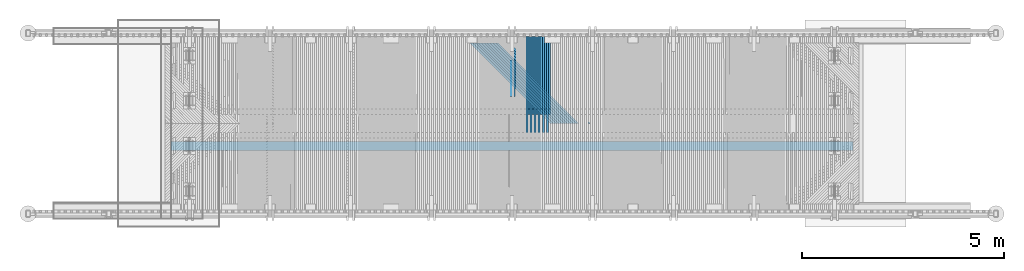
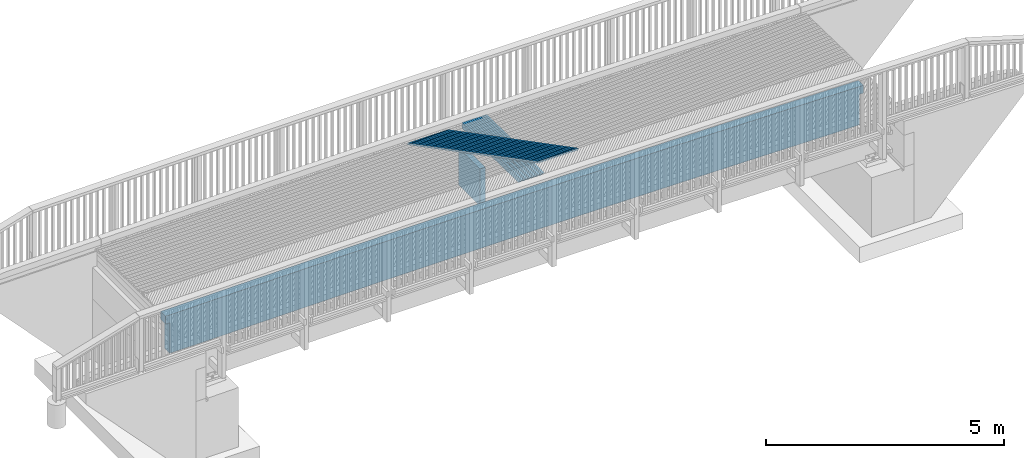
# One storey, part 32 of 52: 28 beams.
"""IFC2X3 building model written with IfcOpenShell, lengths in millimetres."""

from ifc_helpers import new_model, si_unit, frame, origin_with_axes, place, context, subcontext, project, spatial, faceted_brep, material, type_object, element, save


model = new_model("IFC2X3")

# Units and contexts
model_context = context("Model", 3, precision=1e-05, world=origin_with_axes())
body_context = subcontext(model_context, "Body", "Model", "MODEL_VIEW")
ifc_project = project(units=[si_unit("LENGTHUNIT", "METRE", prefix="MILLI"), si_unit("AREAUNIT", "SQUARE_METRE"), si_unit("VOLUMEUNIT", "CUBIC_METRE"), si_unit("MASSUNIT", "GRAM", prefix="KILO"), si_unit("TIMEUNIT", "SECOND"), si_unit("PLANEANGLEUNIT", "RADIAN"), si_unit("SOLIDANGLEUNIT", "STERADIAN"), si_unit("THERMODYNAMICTEMPERATUREUNIT", "DEGREE_CELSIUS"), si_unit("LUMINOUSINTENSITYUNIT", "LUMEN")], contexts=[model_context])

# Site, building, storey
site_placement = place(None, origin_with_axes())
site = spatial("IfcSite", under=ifc_project, at=site_placement, Name="Undefined", CompositionType="ELEMENT")
building_placement = place(site_placement, origin_with_axes())
building = spatial("IfcBuilding", under=site, at=building_placement, Name="Undefined", CompositionType="ELEMENT")
storey_placement = place(building_placement, origin_with_axes())
storey = spatial("IfcBuildingStorey", under=building, at=storey_placement, Name="Undefined", CompositionType="ELEMENT", Elevation=0.0)

# Beams
ifc_material = material(Name="TIMBER/Timber_Undefined")
beam_type_1 = type_object("IfcBeamType", Name="945*140", PredefinedType="NOTDEFINED")
beam_1_placement = place(storey_placement, frame((8000.0, 3937.5, 2542.6979002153), z_axis=(0.0, 0.0, 1.0), x_axis=(0.0, -1.0, 0.0)))
element("IfcBeam", 1, at=beam_1_placement, inside=storey, type_object=beam_type_1, material=ifc_material, Name="PALKKI", ObjectType="945*140", context=body_context, shape_type="Brep", body=[
    faceted_brep([(0.0, 70.0, -472.5), (0.0, 70.0, 472.5), (905.0, 70.0, 472.5), (905.0, 70.0, -472.5), (0.0, -70.0, 472.5), (905.0, -70.0, 472.5), (0.0, -70.0, -472.5), (905.0, -70.0, -472.5)], [[[0, 1, 2, 3]], [[1, 4, 5, 2]], [[4, 6, 7, 5]], [[6, 0, 3, 7]], [[5, 7, 3, 2]], [[6, 4, 1, 0]]]),
])
beam_type_2 = type_object("IfcBeamType", Name="50*50", PredefinedType="NOTDEFINED")
for number, where, z_axis, x_axis, name in (
    (2, (9903.90922166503, 2365.49989967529, 3233.11191274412), (0.707070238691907, 0.706981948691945, -0.0151063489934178), (-0.707142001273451, 0.706948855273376, -0.0131721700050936), "BEAM"),
    (3, (9833.18532878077, 2365.49989967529, 3233.33139353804), (0.707072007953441, 0.706981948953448, -0.0150232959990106), (-0.707140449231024, 0.706948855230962, -0.0132552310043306), "BEAM"),
    (4, (9762.46141060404, 2365.49989967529, 3233.54256705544), (0.707073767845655, 0.706981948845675, -0.0149402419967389), (-0.707138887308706, 0.706948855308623, -0.0133382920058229), "BEAM"),
    (5, (9691.73746811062, 2365.49989967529, 3233.7454332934), (0.707075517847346, 0.706981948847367, -0.0148571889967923), (-0.707137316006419, 0.706948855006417, -0.0134213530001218), "BEAM"),
    (6, (9621.01350227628, 2365.49989967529, 3233.93999224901), (0.707077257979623, 0.706981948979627, -0.0147741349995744), (-0.707135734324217, 0.706948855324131, -0.0135044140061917), "BEAM"),
    (7, (9550.28951407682, 2365.49989967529, 3234.12624391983), (0.707078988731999, 0.706981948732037, -0.0146910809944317), (-0.70713414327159, 0.706948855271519, -0.0135874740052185), "BEAM"),
    (8, (9479.565504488, 2365.49989967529, 3234.30418830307), (0.707080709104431, 0.706981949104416, -0.0146080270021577), (-0.70713254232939, 0.706948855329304, -0.0136705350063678), "BEAM"),
    (9, (9408.8414744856, 2365.49989967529, 3234.4738253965), (0.707082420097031, 0.706981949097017, -0.0145249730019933), (-0.707130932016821, 0.706948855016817, -0.0137535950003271), "BEAM"),
    (10, (9338.11742504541, 2365.49989967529, 3234.63515519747), (0.70708412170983, 0.706981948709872, -0.0144419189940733), (-0.707129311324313, 0.70694885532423, -0.0138366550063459), "BEAM"),
    (11, (9267.39335714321, 2365.49989967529, 3234.78817770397), (0.70708581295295, 0.706981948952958, -0.0143588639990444), (-0.707127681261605, 0.706948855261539, -0.0139197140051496), "BEAM"),
    (12, (9196.66927175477, 2365.49989967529, 3234.93289291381), (0.707087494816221, 0.706981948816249, -0.0142758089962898), (-0.707126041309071, 0.706948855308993, -0.0140027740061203), "BEAM"),
    (13, (9125.94516985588, 2365.49989967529, 3235.06930082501), (0.707089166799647, 0.706981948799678, -0.0141927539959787), (-0.707124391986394, 0.706948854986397, -0.0140858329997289), "BEAM"),
    (14, (9055.22105242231, 2365.49989967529, 3235.1974014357), (0.707090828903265, 0.706981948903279, -0.0141096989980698), (-0.707122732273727, 0.70694885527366, -0.0141688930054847), "BEAM"),
    (15, (8984.49692042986, 2365.49989967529, 3235.31719474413), (0.707092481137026, 0.706981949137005, -0.0140266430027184), (-0.707121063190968, 0.706948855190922, -0.014251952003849), "BEAM"),
):
    element("IfcBeam", number, at=place(storey_placement, frame(where, z_axis=z_axis, x_axis=x_axis)), inside=storey, type_object=beam_type_2, material=ifc_material, Name=name, ObjectType="50*50", context=body_context, shape_type="Brep", body=[
        faceted_brep([(23.5869248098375, 25.0, -25.0000000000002), (-26.4154158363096, 25.0000000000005, 24.9999999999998), (2802.92643296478, 25.0, 24.9999999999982), (2852.92877373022, 25.0000000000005, -25.0), (-25.0011704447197, -25.0, 24.9999999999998), (2804.3406783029, -25.0000000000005, 24.9999999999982), (25.0011701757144, -25.0, -25.0), (2854.34301907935, -24.9999999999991, -25.0)], [[[0, 1, 2, 3]], [[1, 4, 5, 2]], [[4, 6, 7, 5]], [[6, 0, 3, 7]], [[5, 7, 3, 2]], [[6, 4, 1, 0]]]),
    ])
beam_type_3 = type_object("IfcBeamType", Name="150*50", PredefinedType="NOTDEFINED")
beam_2_placement = place(storey_placement, frame((8875.35105555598, 4513.4953923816, 3092.51355357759), z_axis=(0.00137347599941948, 0.0199960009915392, 0.999799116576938), x_axis=(2.74690000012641e-05, -0.999800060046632, 0.0199959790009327)))
element("IfcBeam", 16, at=beam_2_placement, inside=storey, type_object=beam_type_3, material=ifc_material, Name="BEAM", ObjectType="150*50", context=body_context, shape_type="Brep", body=[
    faceted_brep([(-1.67788130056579e-07, -24.9999999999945, -74.9999999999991), (-1.67787220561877e-07, 25.0000000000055, -75.0), (2375.00494422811, 25.0000000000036, -74.9999999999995), (2375.0049444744, -24.9999999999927, -74.9999999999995), (1.67786311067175e-07, -24.9999999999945, 75.0000000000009), (1.67786311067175e-07, 25.0000000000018, 75.0), (2150.42515052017, 25.0000000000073, 75.0), (2510.59248715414, 25.0000000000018, 60.5875433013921), (2510.5924871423, -24.9999999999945, 60.5875430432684), (2150.42514405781, -24.9999999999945, 75.0000000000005)], [[[0, 1, 2, 3]], [[0, 4, 5, 1]], [[2, 1, 5, 6, 7]], [[3, 2, 7, 8]], [[4, 0, 3, 8, 9]], [[5, 4, 9, 6]], [[8, 7, 6, 9]]]),
])
beam_3_placement = place(storey_placement, frame((8925.37102920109, 4513.49539238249, 3092.43652922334), z_axis=(0.00153959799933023, 0.0199960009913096, 0.999798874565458), x_axis=(3.0791000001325e-05, -0.999800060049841, 0.0199959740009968)))
element("IfcBeam", 17, at=beam_3_placement, inside=storey, type_object=beam_type_3, material=ifc_material, Name="BEAM", ObjectType="150*50", context=body_context, shape_type="Brep", body=[
    faceted_brep([(-1.67788130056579e-07, -24.9999999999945, -74.9999999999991), (1.67786311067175e-07, -24.9999999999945, 75.0000000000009), (1.67786311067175e-07, 25.0000000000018, 75.0), (-1.67787220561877e-07, 25.0000000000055, -75.0), (1789.96936408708, 24.9999999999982, 75.0000000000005), (1928.42646328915, 24.9999999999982, -74.9999999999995), (1928.42646353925, -25.0, -75.0), (1789.96936433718, -25.0000000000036, 74.9999999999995)], [[[0, 1, 2, 3]], [[3, 2, 4, 5]], [[0, 3, 5, 6]], [[1, 0, 6, 7]], [[2, 1, 7, 4]], [[5, 4, 7, 6]]]),
])
beam_4_placement = place(storey_placement, frame((8775.33111583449, 4513.4953923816, 3092.65068841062), z_axis=(0.00120735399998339, 0.0199960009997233, 0.999799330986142), x_axis=(2.41470000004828e-05, -0.999800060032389, 0.0199959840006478)))
element("IfcBeam", 18, at=beam_4_placement, inside=storey, type_object=beam_type_3, material=ifc_material, Name="BEAM", ObjectType="150*50", context=body_context, shape_type="Brep", body=[
    faceted_brep([(-1.67788130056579e-07, -24.9999999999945, -74.9999999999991), (-1.67787220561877e-07, 25.0000000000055, -75.0), (2375.00494422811, 25.0000000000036, -74.9999999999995), (2375.0049444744, -24.9999999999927, -74.9999999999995), (1.67786311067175e-07, -24.9999999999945, 75.0000000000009), (1.67786311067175e-07, 25.0000000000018, 75.0), (2150.42515052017, 25.0000000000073, 75.0), (2510.59248715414, 25.0000000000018, 60.5875433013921), (2510.5924871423, -24.9999999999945, 60.5875430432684), (2150.42514405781, -24.9999999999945, 75.0000000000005)], [[[0, 1, 2, 3]], [[0, 4, 5, 1]], [[2, 1, 5, 6, 7]], [[3, 2, 7, 8]], [[4, 0, 3, 8, 9]], [[5, 4, 9, 6]], [[8, 7, 6, 9]]]),
])
beam_5_placement = place(storey_placement, frame((8825.35110158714, 4513.49539238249, 3092.5819751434), z_axis=(0.00137347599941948, 0.0199960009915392, 0.999799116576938), x_axis=(2.74690000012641e-05, -0.999800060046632, 0.0199959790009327)))
element("IfcBeam", 19, at=beam_5_placement, inside=storey, type_object=beam_type_3, material=ifc_material, Name="BEAM", ObjectType="150*50", context=body_context, shape_type="Brep", body=[
    faceted_brep([(-1.67788130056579e-07, -24.9999999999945, -74.9999999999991), (1.67786311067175e-07, -24.9999999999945, 75.0000000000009), (1.67786311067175e-07, 25.0000000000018, 75.0), (-1.67787220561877e-07, 25.0000000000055, -75.0), (1789.96936408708, 24.9999999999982, 75.0000000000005), (1928.42646328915, 24.9999999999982, -74.9999999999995), (1928.42646353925, -25.0, -75.0), (1789.96936433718, -25.0000000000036, 74.9999999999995)], [[[0, 1, 2, 3]], [[3, 2, 4, 5]], [[0, 3, 5, 6]], [[1, 0, 6, 7]], [[2, 1, 7, 4]], [[5, 4, 7, 6]]]),
])
beam_6_placement = place(storey_placement, frame((8675.31115470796, 4513.4953923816, 3092.77120439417), z_axis=(0.00104123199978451, 0.0199960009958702, 0.99979951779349), x_axis=(2.08240000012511e-05, -0.999800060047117, 0.0199959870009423)))
element("IfcBeam", 20, at=beam_6_placement, inside=storey, type_object=beam_type_3, material=ifc_material, Name="BEAM", ObjectType="150*50", context=body_context, shape_type="Brep", body=[
    faceted_brep([(-1.67788130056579e-07, -24.9999999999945, -74.9999999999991), (-1.67787220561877e-07, 25.0000000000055, -75.0), (2375.00494422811, 25.0000000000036, -74.9999999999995), (2375.0049444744, -24.9999999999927, -74.9999999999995), (1.67786311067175e-07, -24.9999999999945, 75.0000000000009), (1.67786311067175e-07, 25.0000000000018, 75.0), (2150.42515052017, 25.0000000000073, 75.0), (2510.59248715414, 25.0000000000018, 60.5875433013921), (2510.5924871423, -24.9999999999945, 60.5875430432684), (2150.42514405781, -24.9999999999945, 75.0000000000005)], [[[0, 1, 2, 3]], [[0, 4, 5, 1]], [[2, 1, 5, 6, 7]], [[3, 2, 7, 8]], [[4, 0, 3, 8, 9]], [[5, 4, 9, 6]], [[8, 7, 6, 9]]]),
])
beam_7_placement = place(storey_placement, frame((8725.33115118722, 4513.49539238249, 3092.71080221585), z_axis=(0.00120735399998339, 0.0199960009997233, 0.999799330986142), x_axis=(2.41470000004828e-05, -0.999800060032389, 0.0199959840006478)))
element("IfcBeam", 21, at=beam_7_placement, inside=storey, type_object=beam_type_3, material=ifc_material, Name="BEAM", ObjectType="150*50", context=body_context, shape_type="Brep", body=[
    faceted_brep([(-1.67788130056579e-07, -24.9999999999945, -74.9999999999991), (1.67786311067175e-07, -24.9999999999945, 75.0000000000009), (1.67786311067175e-07, 25.0000000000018, 75.0), (-1.67787220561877e-07, 25.0000000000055, -75.0), (1789.96936408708, 24.9999999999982, 75.0000000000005), (1928.42646328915, 24.9999999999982, -74.9999999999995), (1928.42646353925, -25.0, -75.0), (1789.96936433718, -25.0000000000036, 74.9999999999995)], [[[0, 1, 2, 3]], [[3, 2, 4, 5]], [[0, 3, 5, 6]], [[1, 0, 6, 7]], [[2, 1, 7, 4]], [[5, 4, 7, 6]]]),
])
beam_8_placement = place(storey_placement, frame((8575.29117493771, 4513.4953923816, 3092.8751015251), z_axis=(0.00087510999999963, 0.0199960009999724, 0.999799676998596), x_axis=(1.75020000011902e-05, -0.999800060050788, 0.0199959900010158)))
element("IfcBeam", 22, at=beam_8_placement, inside=storey, type_object=beam_type_3, material=ifc_material, Name="BEAM", ObjectType="150*50", context=body_context, shape_type="Brep", body=[
    faceted_brep([(-1.67788130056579e-07, -24.9999999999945, -74.9999999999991), (-1.67787220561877e-07, 25.0000000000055, -75.0), (2375.00494422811, 25.0000000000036, -74.9999999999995), (2375.0049444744, -24.9999999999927, -74.9999999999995), (1.67786311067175e-07, -24.9999999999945, 75.0000000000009), (1.67786311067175e-07, 25.0000000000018, 75.0), (2150.42515052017, 25.0000000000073, 75.0), (2510.59248715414, 25.0000000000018, 60.5875433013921), (2510.5924871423, -24.9999999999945, 60.5875430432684), (2150.42520082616, -25.0000000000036, 75.0000000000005)], [[[0, 1, 2, 3]], [[0, 4, 5, 1]], [[2, 1, 5, 6, 7]], [[3, 2, 7, 8]], [[4, 0, 3, 8, 9]], [[5, 4, 9, 6]], [[6, 9, 8, 7]]]),
])
beam_9_placement = place(storey_placement, frame((8625.31118076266, 4513.49539238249, 3092.82301043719), z_axis=(0.00104123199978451, 0.0199960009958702, 0.99979951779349), x_axis=(2.08240000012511e-05, -0.999800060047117, 0.0199959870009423)))
element("IfcBeam", 23, at=beam_9_placement, inside=storey, type_object=beam_type_3, material=ifc_material, Name="BEAM", ObjectType="150*50", context=body_context, shape_type="Brep", body=[
    faceted_brep([(-1.67788130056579e-07, -24.9999999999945, -74.9999999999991), (1.67786311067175e-07, -24.9999999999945, 75.0000000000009), (1.67786311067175e-07, 25.0000000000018, 75.0), (-1.67787220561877e-07, 25.0000000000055, -75.0), (1789.96936408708, 24.9999999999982, 75.0000000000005), (1928.42646328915, 24.9999999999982, -74.9999999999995), (1928.42646353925, -25.0, -75.0), (1789.96936433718, -25.0000000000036, 74.9999999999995)], [[[0, 1, 2, 3]], [[3, 2, 4, 5]], [[0, 3, 5, 6]], [[1, 0, 6, 7]], [[2, 1, 7, 4]], [[5, 4, 7, 6]]]),
])
beam_10_placement = place(storey_placement, frame((8475.27117928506, 4513.4953923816, 3092.96237980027), z_axis=(0.000708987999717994, 0.0199960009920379, 0.999799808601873), x_axis=(1.41790000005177e-05, -0.999800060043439, 0.0199959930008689)))
element("IfcBeam", 24, at=beam_10_placement, inside=storey, type_object=beam_type_3, material=ifc_material, Name="BEAM", ObjectType="150*50", context=body_context, shape_type="Brep", body=[
    faceted_brep([(-1.67788130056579e-07, -24.9999999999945, -74.9999999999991), (-1.67787220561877e-07, 25.0000000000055, -75.0), (2375.00494422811, 25.0000000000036, -74.9999999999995), (2375.0049444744, -24.9999999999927, -74.9999999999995), (1.67786311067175e-07, -24.9999999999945, 75.0000000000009), (1.67786311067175e-07, 25.0000000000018, 75.0), (2150.42515052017, 25.0000000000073, 75.0), (2510.59248715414, 25.0000000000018, 60.5875433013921), (2510.5924871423, -24.9999999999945, 60.5875430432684), (2150.42514405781, -24.9999999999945, 75.0000000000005)], [[[0, 1, 2, 3]], [[0, 4, 5, 1]], [[2, 1, 5, 6, 7]], [[3, 2, 7, 8]], [[4, 0, 3, 8, 9]], [[5, 4, 9, 6]], [[8, 7, 6, 9]]]),
])
beam_11_placement = place(storey_placement, frame((8525.29119307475, 4513.49539238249, 3092.91859980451), z_axis=(0.00087510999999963, 0.0199960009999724, 0.999799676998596), x_axis=(1.75020000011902e-05, -0.999800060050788, 0.0199959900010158)))
element("IfcBeam", 25, at=beam_11_placement, inside=storey, type_object=beam_type_3, material=ifc_material, Name="BEAM", ObjectType="150*50", context=body_context, shape_type="Brep", body=[
    faceted_brep([(-1.67788130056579e-07, -24.9999999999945, -74.9999999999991), (1.67786311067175e-07, -24.9999999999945, 75.0000000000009), (1.67786311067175e-07, 25.0000000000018, 75.0), (-1.67787220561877e-07, 25.0000000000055, -75.0), (1789.96936408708, 24.9999999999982, 75.0000000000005), (1928.42646328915, 24.9999999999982, -74.9999999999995), (1928.42646353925, -25.0, -75.0), (1789.96936433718, -25.0000000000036, 74.9999999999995)], [[[0, 1, 2, 3]], [[3, 2, 4, 5]], [[0, 3, 5, 6]], [[1, 0, 6, 7]], [[2, 1, 7, 4]], [[5, 4, 7, 6]]]),
])
beam_12_placement = place(storey_placement, frame((8375.25117051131, 4513.4953923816, 3093.03303921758), z_axis=(0.000542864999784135, 0.0199960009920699, 0.999799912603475), x_axis=(1.08570000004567e-05, -0.999800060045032, 0.0199959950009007)))
element("IfcBeam", 26, at=beam_12_placement, inside=storey, type_object=beam_type_3, material=ifc_material, Name="BEAM", ObjectType="150*50", context=body_context, shape_type="Brep", body=[
    faceted_brep([(-1.67788130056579e-07, -24.9999999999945, -74.9999999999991), (-1.67787220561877e-07, 25.0000000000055, -75.0), (2375.00494422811, 25.0000000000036, -74.9999999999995), (2375.0049444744, -24.9999999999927, -74.9999999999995), (1.67786311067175e-07, -24.9999999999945, 75.0000000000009), (1.67786311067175e-07, 25.0000000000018, 75.0), (2150.42515052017, 25.0000000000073, 75.0), (2510.59248715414, 25.0000000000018, 60.5875433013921), (2510.5924871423, -24.9999999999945, 60.5875430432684), (2150.42514405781, -24.9999999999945, 75.0000000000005)], [[[0, 1, 2, 3]], [[0, 4, 5, 1]], [[2, 1, 5, 6, 7]], [[3, 2, 7, 8]], [[4, 0, 3, 8, 9]], [[5, 4, 9, 6]], [[8, 7, 6, 9]]]),
])
beam_13_placement = place(storey_placement, frame((8425.27119088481, 4513.49539238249, 3092.99757031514), z_axis=(0.000708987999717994, 0.0199960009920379, 0.999799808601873), x_axis=(1.41790000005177e-05, -0.999800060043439, 0.0199959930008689)))
element("IfcBeam", 27, at=beam_13_placement, inside=storey, type_object=beam_type_3, material=ifc_material, Name="BEAM", ObjectType="150*50", context=body_context, shape_type="Brep", body=[
    faceted_brep([(-1.67788130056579e-07, -24.9999999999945, -74.9999999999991), (1.67786311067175e-07, -24.9999999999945, 75.0000000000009), (1.67786311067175e-07, 25.0000000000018, 75.0), (-1.67787220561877e-07, 25.0000000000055, -75.0), (1789.96936408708, 24.9999999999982, 75.0000000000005), (1928.42646328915, 24.9999999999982, -74.9999999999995), (1928.42646353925, -25.0, -75.0), (1789.96936433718, -25.0000000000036, 74.9999999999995)], [[[0, 1, 2, 3]], [[3, 2, 4, 5]], [[0, 3, 5, 6]], [[1, 0, 6, 7]], [[2, 1, 7, 4]], [[5, 4, 7, 6]]]),
])
beam_type_4 = type_object("IfcBeamType", Name="990*215", PredefinedType="NOTDEFINED")
beam_14_placement = place(storey_placement, frame((243.613169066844, 1805.0, 2502.11879463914), z_axis=(0.0, 0.0, 1.0), x_axis=(1.0, 0.0, 0.0)))
element("IfcBeam", 28, at=beam_14_placement, inside=storey, type_object=beam_type_4, material=ifc_material, Name="PALKKI", ObjectType="990*215", context=body_context, shape_type="Brep", body=[
    faceted_brep([(16106.3868309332, 107.5, -494.790894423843), (16106.3868309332, -107.5, -494.790894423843), (16080.5342107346, -107.5, -494.790894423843), (15793.4597682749, -107.5, -494.790894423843), (15506.3868309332, -107.5, -494.958794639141), (15506.3868309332, 107.5, -494.958794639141), (15793.4597682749, 107.5, -494.790894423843), (16080.5342107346, 107.5, -494.790894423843), (16106.3868309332, 107.5, 285.209105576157), (16106.3868309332, -107.5, 285.209105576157), (16206.3868309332, 107.5, 285.209105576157), (16206.3868309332, -107.5, 285.209105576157), (16206.3868309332, 107.5, 485.682039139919), (16206.3868309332, -107.5, 485.682039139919), (-627.370013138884, 107.5, 486.625216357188), (-627.370013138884, -107.5, 486.625216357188), (-316.879497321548, -107.5, 490.87213125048), (-316.879497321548, 107.5, 490.87213125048), (-693.613169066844, -107.5, 485.684940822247), (-693.613169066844, -107.5, 285.209105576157), (-624.563039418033, -107.5, 285.209105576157), (-693.613169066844, 107.5, 485.684940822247), (-693.613169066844, 107.5, 285.209105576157), (-624.563039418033, 107.5, 285.209105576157), (-593.613169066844, 107.5, 285.209105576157), (-593.613169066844, -107.5, 285.209105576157), (-593.613169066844, 107.5, -494.790894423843), (-593.613169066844, -107.5, -494.790894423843), (-303.651924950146, -107.5, -494.790894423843), (-6.38683093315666, -107.5, 494.958794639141), (6.38683093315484, -107.5, -494.958794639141), (-6.38683093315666, 107.5, 494.958794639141), (6.38683093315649, 107.5, -494.790894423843), (304.107903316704, 107.5, 498.885205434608), (316.370645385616, 107.5, -491.038844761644), (-303.651924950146, 107.5, -494.790894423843), (316.370645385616, -107.5, -491.038844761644), (304.107903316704, -107.5, 498.885205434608), (614.604622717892, -107.5, 502.651362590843), (614.604622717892, 107.5, 502.651362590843), (626.356441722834, 107.5, -487.278884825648), (626.356441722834, -107.5, -487.278884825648), (936.344137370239, -107.5, -483.678915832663), (925.103244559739, -107.5, 506.257265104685), (925.103244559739, 107.5, 506.257265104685), (936.344137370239, 107.5, -483.678915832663), (1246.33364975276, 107.5, -480.238938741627), (1246.33364975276, -107.5, -480.238938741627), (1235.60368613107, -107.5, 509.702912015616), (1235.60368613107, 107.5, 509.702912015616), (1546.10586472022, 107.5, 512.988302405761), (1556.32489629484, 107.5, -476.958954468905), (1556.32489629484, -107.5, -476.958954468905), (1546.10586472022, -107.5, 512.988302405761), (1856.60969761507, -107.5, 516.113435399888), (1856.60969761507, 107.5, 516.113435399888), (1866.31779442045, 107.5, -473.838963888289), (1866.31779442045, -107.5, -473.838963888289), (2176.31226155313, -107.5, -470.878967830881), (2167.11510210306, -107.5, 519.078310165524), (2167.11510210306, 107.5, 519.078310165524), (2176.31226155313, 107.5, -470.878967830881), (2486.30821511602, 107.5, -468.078967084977), (2486.30821511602, -107.5, -468.078967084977), (2477.6219954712, -107.5, 521.882925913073), (2477.6219954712, 107.5, 521.882925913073), (2788.13029500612, 107.5, 524.527281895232), (2796.30557253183, 107.5, -465.438962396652), (2796.30557253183, -107.5, -465.438962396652), (2788.13029500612, -107.5, 524.527281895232), (3098.63991799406, -107.5, 527.011377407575), (3098.63991799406, 107.5, 527.011377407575), (3106.30425122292, 107.5, -462.958954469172), (3106.30425122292, -107.5, -462.958954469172), (3416.30416861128, -107.5, -460.638943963), (3409.15078172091, -107.5, 529.335211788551), (3409.15078172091, 107.5, 529.335211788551), (3416.30416861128, 107.5, -460.638943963), (3726.30524211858, 107.5, -458.478931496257), (3726.30524211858, -107.5, -458.478931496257), (3719.66280347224, -107.5, 531.49878441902), (3719.66280347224, 107.5, 531.49878441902), (4030.1759005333, 107.5, 533.502094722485), (4036.3073891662, 107.5, -456.478917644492), (4036.3073891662, -107.5, -456.478917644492), (4030.1759005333, -107.5, 533.502094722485), (4340.68999018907, -107.5, 535.345142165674), (4340.68999018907, 107.5, 535.345142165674), (4346.3105271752, 107.5, -454.638902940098), (4346.3105271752, -107.5, -454.638902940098), (4656.31457356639, -107.5, -452.958887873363), (4651.20498972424, -107.5, 537.027926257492), (4651.20498972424, 107.5, 537.027926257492), (4656.31457356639, 107.5, -452.958887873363), (4966.31944576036, 107.5, -451.438872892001), (4966.31944576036, -107.5, -451.438872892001), (4961.72081642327, -107.5, 538.550446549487), (4961.72081642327, 107.5, 538.550446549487), (5272.23738757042, 107.5, 539.912702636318), (5276.32506117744, 107.5, -450.078858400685), (5276.32506117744, -107.5, -450.078858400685), (5272.23738757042, -107.5, 539.912702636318), (5582.75462044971, -107.5, 541.114694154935), (5582.75462044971, 107.5, 541.114694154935), (5586.33133723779, 107.5, -448.878844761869), (5586.33133723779, -107.5, -448.878844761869), (5896.33819136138, -107.5, -447.838832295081), (5893.27243234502, -107.5, 542.156420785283), (5893.27243234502, 107.5, 542.156420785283), (5896.33819136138, 107.5, -447.838832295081), (6206.34554096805, 107.5, -446.958821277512), (6206.34554096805, -107.5, -446.958821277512), (6203.79074054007, -107.5, 543.037882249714), (6203.79074054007, 107.5, 543.037882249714), (6514.30946231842, 107.5, 543.759078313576), (6516.35330347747, 107.5, -446.238811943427), (6516.35330347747, -107.5, -446.238811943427), (6514.30946231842, -107.5, 543.759078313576), (6824.82851496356, -107.5, 544.320008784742), (6824.82851496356, 107.5, 544.320008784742), (6826.36139630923, 107.5, -445.678804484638), (6826.36139630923, -107.5, -445.678804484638), (7136.36973688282, -107.5, -445.278799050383), (7135.34781575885, -107.5, 544.720673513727), (7135.34781575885, 107.5, 544.720673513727), (7136.36973688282, 107.5, -445.278799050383), (7446.37824261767, 107.5, -445.038795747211), (7446.37824261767, -107.5, -445.038795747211), (7445.86728198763, -107.5, 544.961072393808), (7445.86728198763, 107.5, 544.961072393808), (7756.38683093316, 107.5, 545.041205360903), (7756.38683093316, 107.5, -444.958794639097), (7756.38683093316, -107.5, -444.958794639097), (7756.38683093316, -107.5, 545.041205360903), (8066.90637987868, -107.5, 544.961072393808), (8066.90637987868, 107.5, 544.961072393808), (8066.39541924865, 107.5, -445.038795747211), (8066.39541924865, -107.5, -445.038795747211), (8376.40392498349, -107.5, -445.278799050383), (8377.42584610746, -107.5, 544.720673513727), (8377.42584610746, 107.5, 544.720673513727), (8376.40392498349, 107.5, -445.278799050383), (8686.41226555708, 107.5, -445.678804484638), (8686.41226555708, -107.5, -445.678804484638), (8687.94514690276, -107.5, 544.320008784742), (8687.94514690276, 107.5, 544.320008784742), (8998.46419954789, 107.5, 543.759078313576), (8996.42035838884, 107.5, -446.238811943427), (8996.42035838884, -107.5, -446.238811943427), (8998.46419954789, -107.5, 543.759078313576), (9308.98292132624, -107.5, 543.037882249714), (9308.98292132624, 107.5, 543.037882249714), (9306.42812089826, 107.5, -446.958821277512), (9306.42812089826, -107.5, -446.958821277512), (9616.43547050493, -107.5, -447.838832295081), (9619.50122952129, -107.5, 542.156420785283), (9619.50122952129, 107.5, 542.156420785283), (9616.43547050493, 107.5, -447.838832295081), (9926.44232462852, 107.5, -448.878844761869), (9926.44232462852, -107.5, -448.878844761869), (9930.0190414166, -107.5, 541.114694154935), (9930.0190414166, 107.5, 541.114694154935), (10240.5362742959, 107.5, 539.912702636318), (10236.4486006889, 107.5, -450.078858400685), (10236.4486006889, -107.5, -450.078858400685), (10240.5362742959, -107.5, 539.912702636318), (10551.052845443, -107.5, 538.550446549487), (10551.052845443, 107.5, 538.550446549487), (10546.454216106, 107.5, -451.438872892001), (10546.454216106, -107.5, -451.438872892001), (10856.4590882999, -107.5, -452.958887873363), (10861.5686721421, -107.5, 537.027926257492), (10861.5686721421, 107.5, 537.027926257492), (10856.4590882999, 107.5, -452.958887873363), (11166.4631346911, 107.5, -454.638902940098), (11166.4631346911, -107.5, -454.638902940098), (11172.0836716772, -107.5, 535.345142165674), (11172.0836716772, 107.5, 535.345142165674), (11482.597761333, 107.5, 533.502094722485), (11476.4662727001, 107.5, -456.478917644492), (11476.4662727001, -107.5, -456.478917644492), (11482.597761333, -107.5, 533.502094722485), (11793.1108583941, -107.5, 531.49878441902), (11793.1108583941, 107.5, 531.49878441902), (11786.4684197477, 107.5, -458.478931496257), (11786.4684197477, -107.5, -458.478931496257), (12096.469493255, -107.5, -460.638943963), (12103.6228801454, -107.5, 529.335211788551), (12103.6228801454, 107.5, 529.335211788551), (12096.469493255, 107.5, -460.638943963), (12406.4694106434, 107.5, -462.958954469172), (12406.4694106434, -107.5, -462.958954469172), (12414.1337438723, -107.5, 527.011377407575), (12414.1337438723, 107.5, 527.011377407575), (12724.6433668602, 107.5, 524.527281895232), (12716.4680893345, 107.5, -465.438962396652), (12716.4680893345, -107.5, -465.438962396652), (12724.6433668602, -107.5, 524.527281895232), (13035.1516663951, -107.5, 521.882925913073), (13035.1516663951, 107.5, 521.882925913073), (13026.4654467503, 107.5, -468.078967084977), (13026.4654467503, -107.5, -468.078967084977), (13336.4614003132, -107.5, -470.878967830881), (13345.6585597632, -107.5, 519.078310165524), (13345.6585597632, 107.5, 519.078310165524), (13336.4614003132, 107.5, -470.878967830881), (13646.4558674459, 107.5, -473.838963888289), (13646.4558674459, -107.5, -473.838963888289), (13656.1639642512, -107.5, 516.113435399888), (13656.1639642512, 107.5, 516.113435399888), (13966.6677971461, 107.5, 512.988302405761), (13956.4487655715, 107.5, -476.958954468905), (13956.4487655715, -107.5, -476.958954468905), (13966.6677971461, -107.5, 512.988302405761), (14277.1699757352, -107.5, 509.702912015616), (14277.1699757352, 107.5, 509.702912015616), (14266.4400121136, 107.5, -480.238938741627), (14266.4400121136, -107.5, -480.238938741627), (14576.4295244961, -107.5, -483.678915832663), (14587.6704173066, -107.5, 506.257265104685), (14587.6704173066, 107.5, 506.257265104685), (14576.4295244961, 107.5, -483.678915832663), (14886.4172201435, 107.5, -487.278884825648), (14886.4172201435, -107.5, -487.278884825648), (14898.1690391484, -107.5, 502.651362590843), (14898.1690391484, 107.5, 502.651362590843), (15208.6657585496, 107.5, 498.885205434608), (15196.4030164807, 107.5, -491.038844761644), (15196.4030164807, -107.5, -491.038844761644), (15208.6657585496, -107.5, 498.885205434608), (15519.1604927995, -107.5, 494.958794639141), (15519.1604927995, 107.5, 494.958794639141), (15806.6537751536, -107.5, 491.180342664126), (15806.6537751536, 107.5, 491.180342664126), (16094.1452189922, -107.5, 487.264500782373), (16094.1452189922, 107.5, 487.264500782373)], [[[0, 1, 2, 3, 4, 5, 6, 7]], [[8, 9, 1, 0]], [[10, 11, 9, 8]], [[12, 13, 11, 10]], [[14, 15, 16, 17]], [[15, 18, 19, 20]], [[21, 22, 19, 18]], [[15, 14, 21, 18]], [[21, 14, 23, 22]], [[24, 25, 20, 19, 22, 23]], [[26, 27, 25, 24]], [[16, 15, 20, 25, 27, 28]], [[29, 16, 28, 30]], [[17, 16, 29, 31]], [[32, 31, 33, 34]], [[17, 31, 32, 35]], [[24, 23, 14, 17, 35, 26]], [[32, 30, 28, 27, 26, 35]], [[34, 36, 30, 32]], [[29, 30, 36, 37]], [[31, 29, 37, 33]], [[33, 37, 38, 39]], [[34, 33, 39, 40]], [[36, 34, 40, 41]], [[37, 36, 41, 38]], [[38, 41, 42, 43]], [[39, 38, 43, 44]], [[40, 39, 44, 45]], [[41, 40, 45, 42]], [[42, 45, 46, 47]], [[43, 42, 47, 48]], [[44, 43, 48, 49]], [[45, 44, 49, 46]], [[46, 49, 50, 51]], [[47, 46, 51, 52]], [[48, 47, 52, 53]], [[49, 48, 53, 50]], [[50, 53, 54, 55]], [[51, 50, 55, 56]], [[52, 51, 56, 57]], [[53, 52, 57, 54]], [[54, 57, 58, 59]], [[55, 54, 59, 60]], [[56, 55, 60, 61]], [[57, 56, 61, 58]], [[58, 61, 62, 63]], [[59, 58, 63, 64]], [[60, 59, 64, 65]], [[61, 60, 65, 62]], [[62, 65, 66, 67]], [[63, 62, 67, 68]], [[64, 63, 68, 69]], [[65, 64, 69, 66]], [[66, 69, 70, 71]], [[67, 66, 71, 72]], [[68, 67, 72, 73]], [[69, 68, 73, 70]], [[70, 73, 74, 75]], [[71, 70, 75, 76]], [[72, 71, 76, 77]], [[73, 72, 77, 74]], [[74, 77, 78, 79]], [[75, 74, 79, 80]], [[76, 75, 80, 81]], [[77, 76, 81, 78]], [[78, 81, 82, 83]], [[79, 78, 83, 84]], [[80, 79, 84, 85]], [[81, 80, 85, 82]], [[82, 85, 86, 87]], [[83, 82, 87, 88]], [[84, 83, 88, 89]], [[85, 84, 89, 86]], [[86, 89, 90, 91]], [[87, 86, 91, 92]], [[88, 87, 92, 93]], [[89, 88, 93, 90]], [[90, 93, 94, 95]], [[91, 90, 95, 96]], [[92, 91, 96, 97]], [[93, 92, 97, 94]], [[94, 97, 98, 99]], [[95, 94, 99, 100]], [[96, 95, 100, 101]], [[97, 96, 101, 98]], [[98, 101, 102, 103]], [[99, 98, 103, 104]], [[100, 99, 104, 105]], [[101, 100, 105, 102]], [[102, 105, 106, 107]], [[103, 102, 107, 108]], [[104, 103, 108, 109]], [[105, 104, 109, 106]], [[106, 109, 110, 111]], [[107, 106, 111, 112]], [[108, 107, 112, 113]], [[109, 108, 113, 110]], [[110, 113, 114, 115]], [[111, 110, 115, 116]], [[112, 111, 116, 117]], [[113, 112, 117, 114]], [[114, 117, 118, 119]], [[115, 114, 119, 120]], [[116, 115, 120, 121]], [[117, 116, 121, 118]], [[118, 121, 122, 123]], [[119, 118, 123, 124]], [[120, 119, 124, 125]], [[121, 120, 125, 122]], [[122, 125, 126, 127]], [[123, 122, 127, 128]], [[124, 123, 128, 129]], [[125, 124, 129, 126]], [[126, 129, 130, 131]], [[127, 126, 131, 132]], [[128, 127, 132, 133]], [[129, 128, 133, 130]], [[130, 133, 134, 135]], [[131, 130, 135, 136]], [[132, 131, 136, 137]], [[133, 132, 137, 134]], [[134, 137, 138, 139]], [[135, 134, 139, 140]], [[136, 135, 140, 141]], [[137, 136, 141, 138]], [[138, 141, 142, 143]], [[139, 138, 143, 144]], [[140, 139, 144, 145]], [[141, 140, 145, 142]], [[142, 145, 146, 147]], [[143, 142, 147, 148]], [[144, 143, 148, 149]], [[145, 144, 149, 146]], [[146, 149, 150, 151]], [[147, 146, 151, 152]], [[148, 147, 152, 153]], [[149, 148, 153, 150]], [[150, 153, 154, 155]], [[151, 150, 155, 156]], [[152, 151, 156, 157]], [[153, 152, 157, 154]], [[154, 157, 158, 159]], [[155, 154, 159, 160]], [[156, 155, 160, 161]], [[157, 156, 161, 158]], [[158, 161, 162, 163]], [[159, 158, 163, 164]], [[160, 159, 164, 165]], [[161, 160, 165, 162]], [[162, 165, 166, 167]], [[163, 162, 167, 168]], [[164, 163, 168, 169]], [[165, 164, 169, 166]], [[166, 169, 170, 171]], [[167, 166, 171, 172]], [[168, 167, 172, 173]], [[169, 168, 173, 170]], [[170, 173, 174, 175]], [[171, 170, 175, 176]], [[172, 171, 176, 177]], [[173, 172, 177, 174]], [[174, 177, 178, 179]], [[175, 174, 179, 180]], [[176, 175, 180, 181]], [[177, 176, 181, 178]], [[178, 181, 182, 183]], [[179, 178, 183, 184]], [[180, 179, 184, 185]], [[181, 180, 185, 182]], [[182, 185, 186, 187]], [[183, 182, 187, 188]], [[184, 183, 188, 189]], [[185, 184, 189, 186]], [[186, 189, 190, 191]], [[187, 186, 191, 192]], [[188, 187, 192, 193]], [[189, 188, 193, 190]], [[190, 193, 194, 195]], [[191, 190, 195, 196]], [[192, 191, 196, 197]], [[193, 192, 197, 194]], [[194, 197, 198, 199]], [[195, 194, 199, 200]], [[196, 195, 200, 201]], [[197, 196, 201, 198]], [[198, 201, 202, 203]], [[199, 198, 203, 204]], [[200, 199, 204, 205]], [[201, 200, 205, 202]], [[202, 205, 206, 207]], [[203, 202, 207, 208]], [[204, 203, 208, 209]], [[205, 204, 209, 206]], [[206, 209, 210, 211]], [[207, 206, 211, 212]], [[208, 207, 212, 213]], [[209, 208, 213, 210]], [[210, 213, 214, 215]], [[211, 210, 215, 216]], [[212, 211, 216, 217]], [[213, 212, 217, 214]], [[214, 217, 218, 219]], [[215, 214, 219, 220]], [[216, 215, 220, 221]], [[217, 216, 221, 218]], [[218, 221, 222, 223]], [[219, 218, 223, 224]], [[220, 219, 224, 225]], [[221, 220, 225, 222]], [[222, 225, 226, 227]], [[223, 222, 227, 228]], [[224, 223, 228, 229]], [[225, 224, 229, 226]], [[226, 229, 230, 231]], [[231, 230, 232, 233]], [[233, 232, 234, 235]], [[8, 0, 7, 235, 12, 10]], [[233, 235, 7, 6]], [[231, 233, 6, 5]], [[227, 226, 231, 5]], [[228, 227, 5, 4]], [[229, 228, 4, 230]], [[232, 230, 4, 3]], [[234, 232, 3, 2]], [[234, 2, 1, 9, 11, 13]], [[235, 234, 13, 12]]]),
])

save(model, "model.ifc")
